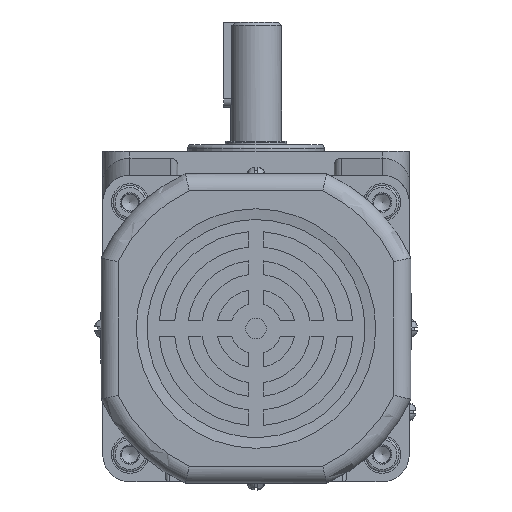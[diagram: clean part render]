
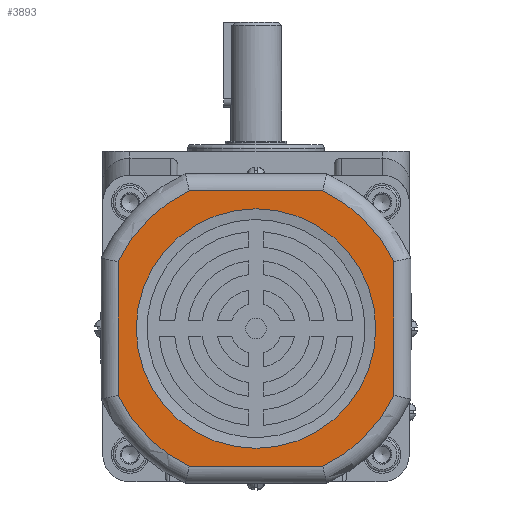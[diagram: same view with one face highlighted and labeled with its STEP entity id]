
A CAD part, front view. The second image highlights one B-rep face of the part: STEP entity #3893.
In plain terms, the highlighted planar face has unit normal (0, -1, 0).
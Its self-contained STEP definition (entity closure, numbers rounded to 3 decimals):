
#729=LINE('',#17220,#1506);
#731=LINE('',#17223,#1508);
#733=LINE('',#17226,#1510);
#736=LINE('',#17230,#1513);
#1506=VECTOR('',#13821,1.);
#1508=VECTOR('',#13825,1.);
#1510=VECTOR('',#13829,1.);
#1513=VECTOR('',#13834,1.);
#3893=ADVANCED_FACE('',(#4943,#4944),#4579,.F.);
#4579=PLANE('',#12481);
#4943=FACE_BOUND('',#5292,.T.);
#4944=FACE_BOUND('',#5293,.T.);
#5292=EDGE_LOOP('',(#6313,#6314,#6315,#6316,#6317,#6318,#6319,#6320));
#5293=EDGE_LOOP('',(#6321));
#6313=ORIENTED_EDGE('',*,*,#10192,.T.);
#6314=ORIENTED_EDGE('',*,*,#10182,.T.);
#6315=ORIENTED_EDGE('',*,*,#10189,.T.);
#6316=ORIENTED_EDGE('',*,*,#10178,.T.);
#6317=ORIENTED_EDGE('',*,*,#10187,.T.);
#6318=ORIENTED_EDGE('',*,*,#10174,.T.);
#6319=ORIENTED_EDGE('',*,*,#10185,.T.);
#6320=ORIENTED_EDGE('',*,*,#10170,.T.);
#6321=ORIENTED_EDGE('',*,*,#10230,.F.);
#9166=VERTEX_POINT('',#17108);
#9168=VERTEX_POINT('',#17111);
#9170=VERTEX_POINT('',#17139);
#9172=VERTEX_POINT('',#17142);
#9174=VERTEX_POINT('',#17170);
#9176=VERTEX_POINT('',#17173);
#9178=VERTEX_POINT('',#17201);
#9180=VERTEX_POINT('',#17204);
#9207=VERTEX_POINT('',#17506);
#10170=EDGE_CURVE('',#9168,#9166,#11679,.T.);
#10174=EDGE_CURVE('',#9172,#9170,#11681,.T.);
#10178=EDGE_CURVE('',#9176,#9174,#11683,.T.);
#10182=EDGE_CURVE('',#9180,#9178,#11685,.T.);
#10185=EDGE_CURVE('',#9170,#9168,#729,.T.);
#10187=EDGE_CURVE('',#9174,#9172,#731,.T.);
#10189=EDGE_CURVE('',#9178,#9176,#733,.T.);
#10192=EDGE_CURVE('',#9166,#9180,#736,.T.);
#10230=EDGE_CURVE('',#9207,#9207,#11687,.T.);
#11679=CIRCLE('',#12451,45.);
#11681=CIRCLE('',#12454,45.);
#11683=CIRCLE('',#12457,45.);
#11685=CIRCLE('',#12460,45.);
#11687=CIRCLE('',#12480,35.157);
#12451=AXIS2_PLACEMENT_3D('',#17110,#13797,#13798);
#12454=AXIS2_PLACEMENT_3D('',#17141,#13803,#13804);
#12457=AXIS2_PLACEMENT_3D('',#17172,#13809,#13810);
#12460=AXIS2_PLACEMENT_3D('',#17203,#13815,#13816);
#12480=AXIS2_PLACEMENT_3D('',#17505,#13887,#13888);
#12481=AXIS2_PLACEMENT_3D('',#17507,#13889,#13890);
#13797=DIRECTION('',(0.,-1.,0.));
#13798=DIRECTION('',(-1.,0.,0.));
#13803=DIRECTION('',(0.,-1.,0.));
#13804=DIRECTION('',(-1.,0.,0.));
#13809=DIRECTION('',(0.,-1.,0.));
#13810=DIRECTION('',(-1.,0.,0.));
#13815=DIRECTION('',(0.,-1.,0.));
#13816=DIRECTION('',(-1.,0.,0.));
#13821=DIRECTION('',(0.,0.,1.));
#13825=DIRECTION('',(1.,0.,0.));
#13829=DIRECTION('',(0.,0.,-1.));
#13834=DIRECTION('',(-1.,0.,0.));
#13887=DIRECTION('',(0.,-1.,0.));
#13888=DIRECTION('',(1.,0.,0.));
#13889=DIRECTION('',(0.,1.,0.));
#13890=DIRECTION('',(-1.,0.,0.));
#17108=CARTESIAN_POINT('',(19.615,-230.,-11.5));
#17110=CARTESIAN_POINT('',(0.,-230.,-52.));
#17111=CARTESIAN_POINT('',(40.5,-230.,-32.385));
#17139=CARTESIAN_POINT('',(40.5,-230.,-71.615));
#17141=CARTESIAN_POINT('',(0.,-230.,-52.));
#17142=CARTESIAN_POINT('',(19.615,-230.,-92.5));
#17170=CARTESIAN_POINT('',(-19.615,-230.,-92.5));
#17172=CARTESIAN_POINT('',(0.,-230.,-52.));
#17173=CARTESIAN_POINT('',(-40.5,-230.,-71.615));
#17201=CARTESIAN_POINT('',(-40.5,-230.,-32.385));
#17203=CARTESIAN_POINT('',(0.,-230.,-52.));
#17204=CARTESIAN_POINT('',(-19.615,-230.,-11.5));
#17220=CARTESIAN_POINT('',(40.5,-230.,-6.543));
#17223=CARTESIAN_POINT('',(0.,-230.,-92.5));
#17226=CARTESIAN_POINT('',(-40.5,-230.,-6.543));
#17230=CARTESIAN_POINT('',(0.,-230.,-11.5));
#17505=CARTESIAN_POINT('',(0.,-230.,-52.));
#17506=CARTESIAN_POINT('',(35.157,-230.,-52.));
#17507=CARTESIAN_POINT('',(0.,-230.,-6.543));
